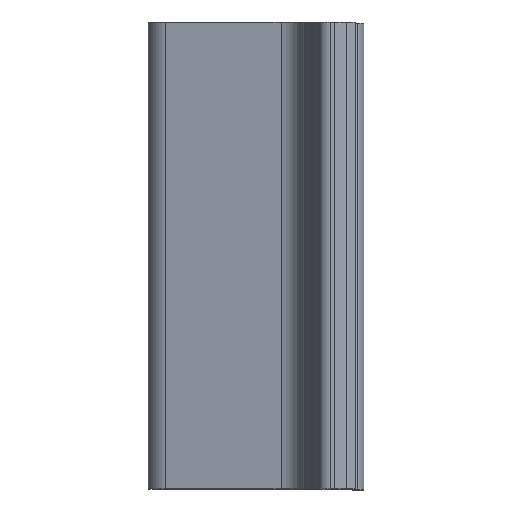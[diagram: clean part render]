
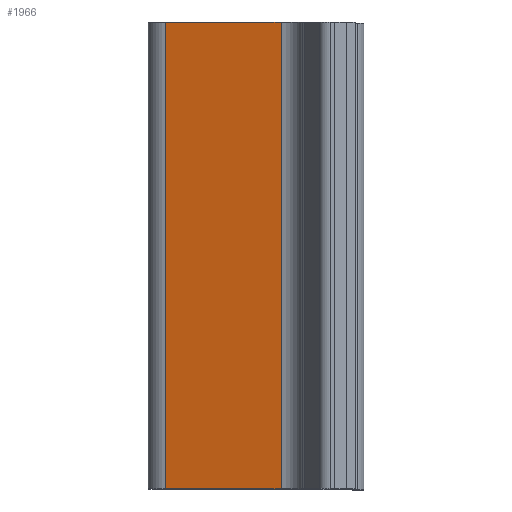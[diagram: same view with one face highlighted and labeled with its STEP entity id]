
A CAD part, top view. The second image highlights one B-rep face of the part: STEP entity #1966.
In plain terms, the highlighted planar face has unit normal (-0.259, 0, 0.966).
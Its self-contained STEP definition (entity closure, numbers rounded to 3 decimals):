
#1908=CARTESIAN_POINT('',(4.294,40.0,34.174));
#1909=VERTEX_POINT('',#1908);
#1917=CARTESIAN_POINT('',(4.294,-40.0,34.174));
#1918=VERTEX_POINT('',#1917);
#1919=CARTESIAN_POINT('',(4.294,-40.0,34.174));
#1920=DIRECTION('',(0.0,1.0,0.0));
#1921=VECTOR('',#1920,80.0);
#1922=LINE('',#1919,#1921);
#1923=EDGE_CURVE('',#1918,#1909,#1922,.T.);
#1936=CARTESIAN_POINT('',(4.294,-40.0,34.174));
#1937=DIRECTION('',(-0.259,0.0,0.966));
#1938=DIRECTION('',(0.966,0.0,0.259));
#1939=AXIS2_PLACEMENT_3D('',#1936,#1937,#1938);
#1940=PLANE('',#1939);
#1941=CARTESIAN_POINT('',(-15.535,40.0,28.861));
#1942=VERTEX_POINT('',#1941);
#1943=CARTESIAN_POINT('',(4.294,40.0,34.174));
#1944=DIRECTION('',(-0.966,0.0,-0.259));
#1945=VECTOR('',#1944,20.529);
#1946=LINE('',#1943,#1945);
#1947=EDGE_CURVE('',#1909,#1942,#1946,.T.);
#1948=ORIENTED_EDGE('',*,*,#1947,.T.);
#1949=CARTESIAN_POINT('',(-15.535,-40.0,28.861));
#1950=VERTEX_POINT('',#1949);
#1951=CARTESIAN_POINT('',(-15.535,-40.0,28.861));
#1952=DIRECTION('',(0.0,1.0,0.0));
#1953=VECTOR('',#1952,80.0);
#1954=LINE('',#1951,#1953);
#1955=EDGE_CURVE('',#1950,#1942,#1954,.T.);
#1956=ORIENTED_EDGE('',*,*,#1955,.F.);
#1957=CARTESIAN_POINT('',(-15.535,-40.0,28.861));
#1958=DIRECTION('',(0.966,0.0,0.259));
#1959=VECTOR('',#1958,20.529);
#1960=LINE('',#1957,#1959);
#1961=EDGE_CURVE('',#1950,#1918,#1960,.T.);
#1962=ORIENTED_EDGE('',*,*,#1961,.T.);
#1963=ORIENTED_EDGE('',*,*,#1923,.T.);
#1964=EDGE_LOOP('',(#1948,#1956,#1962,#1963));
#1965=FACE_OUTER_BOUND('',#1964,.T.);
#1966=ADVANCED_FACE('',(#1965),#1940,.T.);
